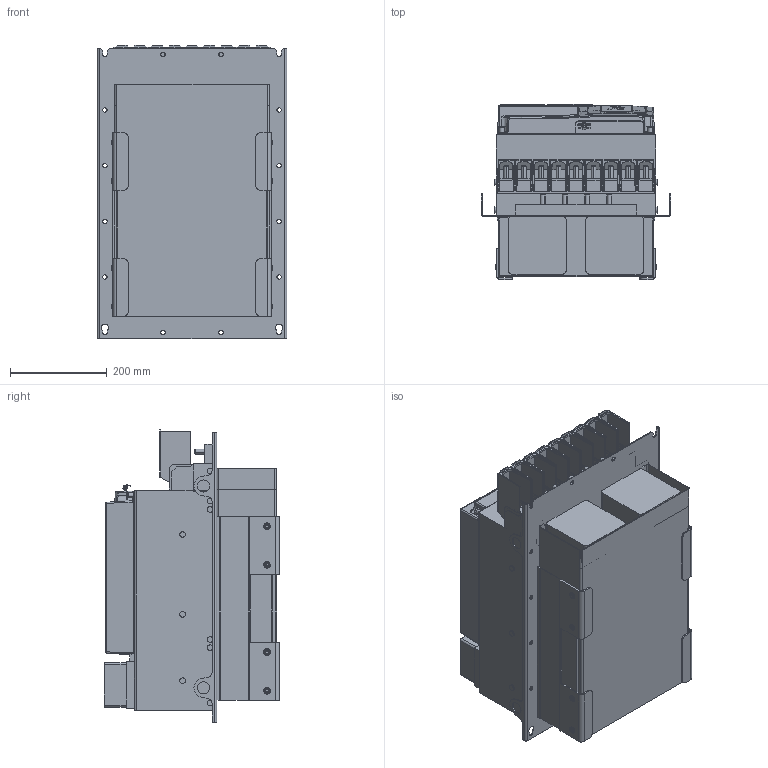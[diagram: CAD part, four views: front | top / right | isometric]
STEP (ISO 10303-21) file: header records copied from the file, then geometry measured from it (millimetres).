
FILE_DESCRIPTION (( 'STEP AP214' ), '1' );
FILE_NAME ('10061524_000.STEP', '2022-11-16T13:59:33', ( '' ), ( '' ), 'SwSTEP 2.0', 'SolidWorks 2022', '' );
FILE_SCHEMA (( 'AUTOMOTIVE_DESIGN' ));
Length unit declared in the file: millimetre
Products named in the file (15): Kundenmodell^10044088_000; Kundenmodell Leistungsteil F6-7 TR5^10061514_000; 10061524_000; Kundenmodell^10044643_000; 10044643_000_Kundenmodell; Kundenmodell^10061502_000; Kundenmodell^10045475_000_Gehäusebaugruppe mit Lüfterkarte; 10061514_000_F6-7 Leistungsteil TR5 (Kundenmodell); Kundenmodell^10059764_000; 10044088_000_Kundenmodell; Kundenmodell^10043622_000; 10043622_000_70F6 Klemme (Kundenmodell); 10059764_000_Blindabdeckung (Kundenmodell); 10045475_000_Gehäusebaugruppe F6-7 +Lüfterkarte (Kundenmodell); 10061502_000_Deckel (Kundenmodell)
Assembly tree (14 placements, depth 4):
  10061524_000
    10061514_000_F6-7 Leistungsteil TR5 (Kundenmodell)
      10043622_000_70F6 Klemme (Kundenmodell)
        Kundenmodell^10043622_000
      Kundenmodell Leistungsteil F6-7 TR5^10061514_000
    10045475_000_Gehäusebaugruppe F6-7 +Lüfterkarte (Kundenmodell)
      10061502_000_Deckel (Kundenmodell)
        Kundenmodell^10061502_000
      10044088_000_Kundenmodell
        Kundenmodell^10044088_000
      Kundenmodell^10045475_000_Gehäusebaugruppe mit Lüfterkarte
    10044643_000_Kundenmodell
      10059764_000_Blindabdeckung (Kundenmodell)
        Kundenmodell^10059764_000
      Kundenmodell^10044643_000
Bounding box: 392 x 361.9 x 606.26 mm (x, y, z)
Volume: 55726008.7 mm3; surface area: 2322019 mm2
Topology: 13 solids, 14 shells, 3398 faces, 8715 edges, 5378 vertices
Faces by surface type: plane 1743, cylinder 1026, bspline 296, sphere 172, torus 99, cone 62
Entity records: 109715 total; most frequent: CARTESIAN_POINT 29176, ORIENTED_EDGE 17210, DIRECTION 15904, EDGE_CURVE 8605, VECTOR 5526, LINE 5526, VERTEX_POINT 5375, AXIS2_PLACEMENT_3D 5189
